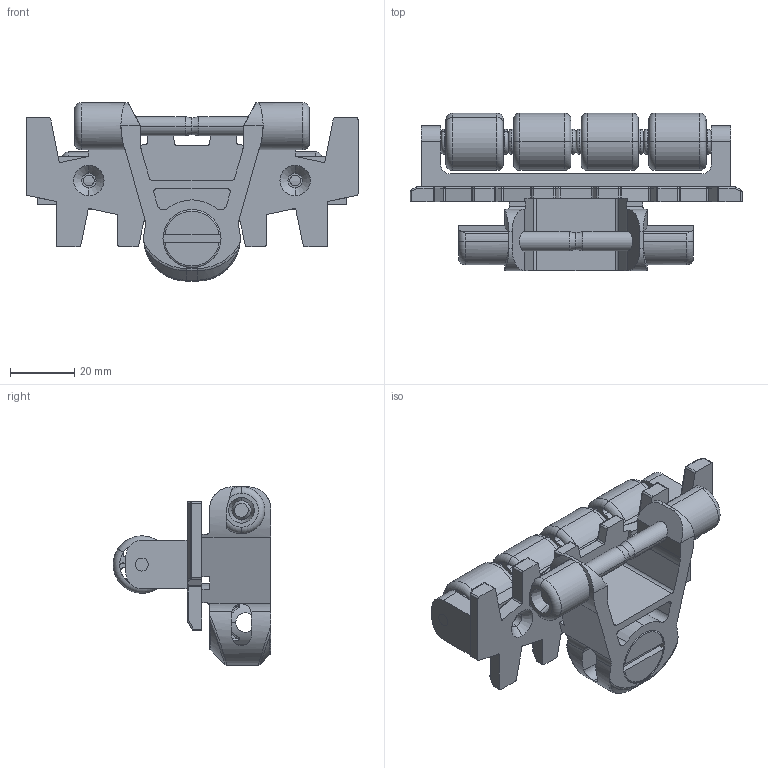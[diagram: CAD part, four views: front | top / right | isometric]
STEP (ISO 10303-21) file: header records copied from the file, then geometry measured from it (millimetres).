
FILE_DESCRIPTION (( 'STEP AP214' ), '1' );
FILE_NAME ('FCRC-5A-P.STEP', '2011-07-04T12:05:46', ( '.' ), ( '' ), 'SwSTEP 2.0', 'SolidWorks 2010', '' );
FILE_SCHEMA (( 'AUTOMOTIVE_DESIGN' ));
Length unit declared in the file: millimetre
Products named in the file (7): Axe pour F..RC_FC; Goupille pour chaine_Goupille pour chaine FC; Support goupille_Support goupille FC; FCPC-5_FCRC; FCRC-5A-P; Galets F...RC; Support alu F...RC_FC
Assembly tree (9 placements, depth 2):
  FCRC-5A-P
    Galets F...RC  x4
    Goupille pour chaine_Goupille pour chaine FC
    Axe pour F..RC_FC
    Support alu F...RC_FC
    FCPC-5_FCRC
    Support goupille_Support goupille FC
Bounding box: 103 x 48.9 x 55.3 mm (x, y, z)
Volume: 56206.4 mm3; surface area: 37979.9 mm2
Topology: 9 solids, 9 shells, 667 faces, 1736 edges, 1020 vertices
Faces by surface type: cylinder 360, plane 153, torus 84, sphere 50, cone 16, bspline 4
Entity records: 17395 total; most frequent: CARTESIAN_POINT 4225, DIRECTION 2889, ORIENTED_EDGE 2642, EDGE_CURVE 1321, AXIS2_PLACEMENT_3D 1138, VERTEX_POINT 790, LINE 613, VECTOR 613
